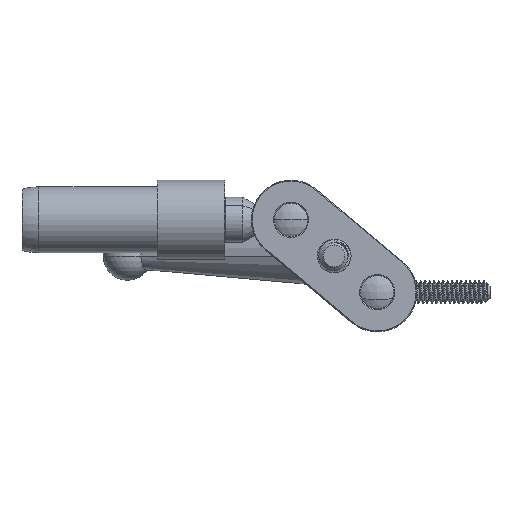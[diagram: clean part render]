
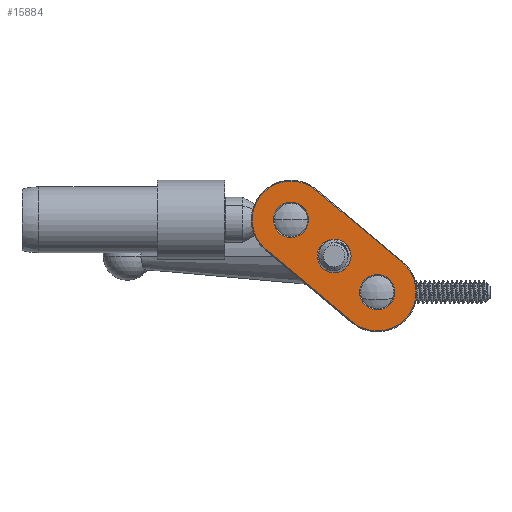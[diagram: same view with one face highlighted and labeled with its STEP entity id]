
A CAD part, front view. The second image highlights one B-rep face of the part: STEP entity #15884.
In plain terms, the highlighted planar face has unit normal (0, -1, 0).
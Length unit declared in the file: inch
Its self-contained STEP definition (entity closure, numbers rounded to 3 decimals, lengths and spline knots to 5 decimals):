
#553 = DIRECTION ( 'NONE',  ( 0., -1., 0. ) ) ;
#637 = PLANE ( 'NONE',  #24619 ) ;
#765 = AXIS2_PLACEMENT_3D ( 'NONE', #50787, #11026, #57443 ) ;
#934 = CARTESIAN_POINT ( 'NONE',  ( 1.69107, -0.517, -0.80348 ) ) ;
#1996 = CARTESIAN_POINT ( 'NONE',  ( 1.00991, -0.517, 0.3294 ) ) ;
#3572 = EDGE_CURVE ( 'NONE', #79574, #48076, #15863, .T. ) ;
#3803 = EDGE_CURVE ( 'NONE', #48883, #70591, #26217, .T. ) ;
#3978 = DIRECTION ( 'NONE',  ( 0.643, 0., 0.766 ) ) ;
#4047 = ORIENTED_EDGE ( 'NONE', *, *, #29831, .T. ) ;
#6027 = ORIENTED_EDGE ( 'NONE', *, *, #64283, .T. ) ;
#6831 = FACE_BOUND ( 'NONE', #31422, .T. ) ;
#7598 = DIRECTION ( 'NONE',  ( 0.643, 0., 0.766 ) ) ;
#7852 = CARTESIAN_POINT ( 'NONE',  ( 1.41467, -0.517, -1.13288 ) ) ;
#8268 = EDGE_CURVE ( 'NONE', #32581, #55629, #26351, .T. ) ;
#8834 = CARTESIAN_POINT ( 'NONE',  ( 0.73351, -0.517, 0. ) ) ;
#9222 = CARTESIAN_POINT ( 'NONE',  ( 1.81641, -0.517, -0.65411 ) ) ;
#10092 = CIRCLE ( 'NONE', #57761, 0.15625 ) ;
#11026 = DIRECTION ( 'NONE',  ( 0., 1., 0. ) ) ;
#12377 = ORIENTED_EDGE ( 'NONE', *, *, #46335, .T. ) ;
#12393 = DIRECTION ( 'NONE',  ( 0.766, 0., -0.643 ) ) ;
#14020 = VECTOR ( 'NONE', #12393, 39.37008 ) ;
#14309 = VERTEX_POINT ( 'NONE', #79708 ) ;
#15533 = DIRECTION ( 'NONE',  ( 0.643, 0., 0.766 ) ) ;
#15612 = CARTESIAN_POINT ( 'NONE',  ( 0.60817, -0.517, -0.14938 ) ) ;
#15863 = CIRCLE ( 'NONE', #37244, 0.43 ) ;
#15884 = ADVANCED_FACE ( 'NONE', ( #22462, #6831, #57719, #59773 ), #637, .F. ) ;
#18763 = VERTEX_POINT ( 'NONE', #40500 ) ;
#19777 = VECTOR ( 'NONE', #76321, 39.37008 ) ;
#20735 = AXIS2_PLACEMENT_3D ( 'NONE', #28355, #74551, #35038 ) ;
#22462 = FACE_BOUND ( 'NONE', #61492, .T. ) ;
#22682 = CARTESIAN_POINT ( 'NONE',  ( 1.69107, -0.517, -0.80348 ) ) ;
#24619 = AXIS2_PLACEMENT_3D ( 'NONE', #934, #47404, #7598 ) ;
#26217 = CIRCLE ( 'NONE', #31790, 0.195 ) ;
#26351 = CIRCLE ( 'NONE', #78937, 0.195 ) ;
#27034 = CIRCLE ( 'NONE', #81891, 0.43 ) ;
#27398 = EDGE_CURVE ( 'NONE', #80738, #18763, #10092, .T. ) ;
#27661 = DIRECTION ( 'NONE',  ( 0., -1., 0. ) ) ;
#28355 = CARTESIAN_POINT ( 'NONE',  ( 1.69107, -0.517, -0.80348 ) ) ;
#29044 = DIRECTION ( 'NONE',  ( 0., 1., 0. ) ) ;
#29388 = DIRECTION ( 'NONE',  ( 0.643, 0., 0.766 ) ) ;
#29831 = EDGE_CURVE ( 'NONE', #48076, #38973, #64835, .T. ) ;
#30427 = EDGE_LOOP ( 'NONE', ( #62283, #74088 ) ) ;
#31422 = EDGE_LOOP ( 'NONE', ( #64113, #56342 ) ) ;
#31790 = AXIS2_PLACEMENT_3D ( 'NONE', #22682, #68994, #29388 ) ;
#32581 = VERTEX_POINT ( 'NONE', #15612 ) ;
#33005 = CIRCLE ( 'NONE', #20735, 0.195 ) ;
#35038 = DIRECTION ( 'NONE',  ( 0.643, 0., 0.766 ) ) ;
#35886 = CIRCLE ( 'NONE', #765, 0.15625 ) ;
#37244 = AXIS2_PLACEMENT_3D ( 'NONE', #67288, #27661, #73897 ) ;
#38621 = CARTESIAN_POINT ( 'NONE',  ( 0.45711, -0.517, -0.3294 ) ) ;
#38973 = VERTEX_POINT ( 'NONE', #7852 ) ;
#40369 = CARTESIAN_POINT ( 'NONE',  ( 1.69107, -0.517, -0.80348 ) ) ;
#40500 = CARTESIAN_POINT ( 'NONE',  ( 1.31273, -0.517, -0.28205 ) ) ;
#43786 = DIRECTION ( 'NONE',  ( 0., 1., 0. ) ) ;
#46335 = EDGE_CURVE ( 'NONE', #18763, #80738, #35886, .T. ) ;
#47036 = DIRECTION ( 'NONE',  ( 0.643, 0., 0.766 ) ) ;
#47404 = DIRECTION ( 'NONE',  ( 0., 1., 0. ) ) ;
#48076 = VERTEX_POINT ( 'NONE', #38621 ) ;
#48387 = CARTESIAN_POINT ( 'NONE',  ( 1.56572, -0.517, -0.95286 ) ) ;
#48883 = VERTEX_POINT ( 'NONE', #48387 ) ;
#50787 = CARTESIAN_POINT ( 'NONE',  ( 1.21229, -0.517, -0.40174 ) ) ;
#51528 = EDGE_CURVE ( 'NONE', #38973, #14309, #27034, .T. ) ;
#52183 = CARTESIAN_POINT ( 'NONE',  ( 1.41467, -0.517, -1.13288 ) ) ;
#54060 = EDGE_LOOP ( 'NONE', ( #63987, #4047, #54751, #6027 ) ) ;
#54751 = ORIENTED_EDGE ( 'NONE', *, *, #51528, .T. ) ;
#55109 = LINE ( 'NONE', #69747, #19777 ) ;
#55303 = DIRECTION ( 'NONE',  ( 0., 1., 0. ) ) ;
#55629 = VERTEX_POINT ( 'NONE', #68755 ) ;
#56342 = ORIENTED_EDGE ( 'NONE', *, *, #67965, .T. ) ;
#57443 = DIRECTION ( 'NONE',  ( 0.643, 0., 0.766 ) ) ;
#57719 = FACE_OUTER_BOUND ( 'NONE', #54060, .T. ) ;
#57761 = AXIS2_PLACEMENT_3D ( 'NONE', #68660, #29044, #75233 ) ;
#59773 = FACE_BOUND ( 'NONE', #30427, .T. ) ;
#61492 = EDGE_LOOP ( 'NONE', ( #12377, #70378 ) ) ;
#62283 = ORIENTED_EDGE ( 'NONE', *, *, #8268, .T. ) ;
#63987 = ORIENTED_EDGE ( 'NONE', *, *, #3572, .T. ) ;
#64113 = ORIENTED_EDGE ( 'NONE', *, *, #3803, .T. ) ;
#64283 = EDGE_CURVE ( 'NONE', #14309, #79574, #55109, .T. ) ;
#64835 = LINE ( 'NONE', #52183, #14020 ) ;
#65675 = CARTESIAN_POINT ( 'NONE',  ( 1.11185, -0.517, -0.52144 ) ) ;
#67288 = CARTESIAN_POINT ( 'NONE',  ( 0.73351, -0.517, 0. ) ) ;
#67965 = EDGE_CURVE ( 'NONE', #70591, #48883, #33005, .T. ) ;
#68660 = CARTESIAN_POINT ( 'NONE',  ( 1.21229, -0.517, -0.40174 ) ) ;
#68755 = CARTESIAN_POINT ( 'NONE',  ( 0.85886, -0.517, 0.14938 ) ) ;
#68994 = DIRECTION ( 'NONE',  ( 0., 1., 0. ) ) ;
#69747 = CARTESIAN_POINT ( 'NONE',  ( 1.96747, -0.517, -0.47409 ) ) ;
#70378 = ORIENTED_EDGE ( 'NONE', *, *, #27398, .T. ) ;
#70591 = VERTEX_POINT ( 'NONE', #9222 ) ;
#73897 = DIRECTION ( 'NONE',  ( 0.643, 0., 0.766 ) ) ;
#74088 = ORIENTED_EDGE ( 'NONE', *, *, #81413, .T. ) ;
#74551 = DIRECTION ( 'NONE',  ( 0., 1., 0. ) ) ;
#75233 = DIRECTION ( 'NONE',  ( 0.643, 0., 0.766 ) ) ;
#76321 = DIRECTION ( 'NONE',  ( -0.766, 0., 0.643 ) ) ;
#78937 = AXIS2_PLACEMENT_3D ( 'NONE', #83238, #43786, #3978 ) ;
#79574 = VERTEX_POINT ( 'NONE', #1996 ) ;
#79708 = CARTESIAN_POINT ( 'NONE',  ( 1.96747, -0.517, -0.47409 ) ) ;
#80738 = VERTEX_POINT ( 'NONE', #65675 ) ;
#81413 = EDGE_CURVE ( 'NONE', #55629, #32581, #82953, .T. ) ;
#81585 = AXIS2_PLACEMENT_3D ( 'NONE', #8834, #55303, #15533 ) ;
#81891 = AXIS2_PLACEMENT_3D ( 'NONE', #40369, #553, #47036 ) ;
#82953 = CIRCLE ( 'NONE', #81585, 0.195 ) ;
#83238 = CARTESIAN_POINT ( 'NONE',  ( 0.73351, -0.517, 0. ) ) ;
